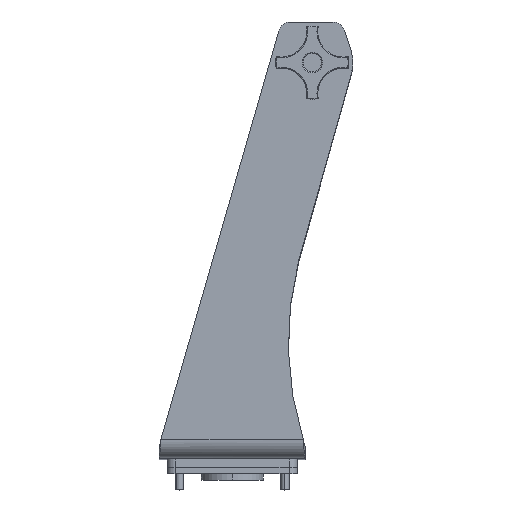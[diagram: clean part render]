
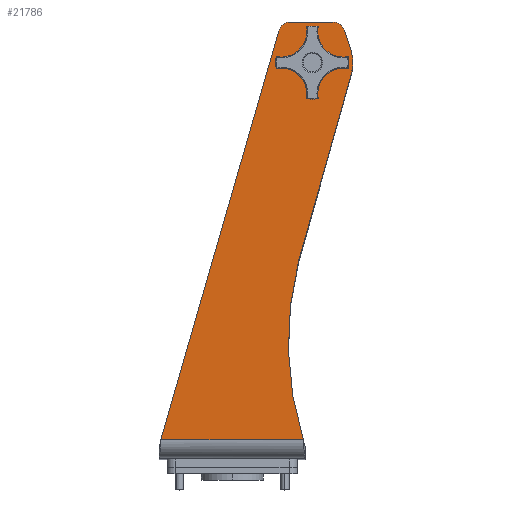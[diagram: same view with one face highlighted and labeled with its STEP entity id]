
A CAD part, top view. The second image highlights one B-rep face of the part: STEP entity #21786.
In plain terms, the highlighted planar face has unit normal (0, 0, 1) as drawn and (1, 0, 0) by its records, which use the part's own axes.
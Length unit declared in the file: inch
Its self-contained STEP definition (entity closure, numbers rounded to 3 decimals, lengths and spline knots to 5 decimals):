
#489 = LINE ( 'NONE', #11552, #24129 ) ;
#490 = CIRCLE ( 'NONE', #4813, 0.37474 ) ;
#504 = DIRECTION ( 'NONE',  ( 0., 0., 1. ) ) ;
#586 = CARTESIAN_POINT ( 'NONE',  ( 12.188, 13.426, -11.72649 ) ) ;
#816 = CARTESIAN_POINT ( 'NONE',  ( 12.188, 2.05303, -7.08248 ) ) ;
#969 = CARTESIAN_POINT ( 'NONE',  ( 12.188, 13.05126, -1.79451 ) ) ;
#1171 = DIRECTION ( 'NONE',  ( 1., 0., 0. ) ) ;
#1961 = LINE ( 'NONE', #5894, #15483 ) ;
#2237 = DIRECTION ( 'NONE',  ( 0., -0.961, 0.277 ) ) ;
#2592 = CARTESIAN_POINT ( 'NONE',  ( 12.188, 12.176, -2.46533 ) ) ;
#2807 = DIRECTION ( 'NONE',  ( 0., 1., 0. ) ) ;
#3528 = EDGE_CURVE ( 'NONE', #10192, #7023, #1961, .T. ) ;
#3694 = CARTESIAN_POINT ( 'NONE',  ( 12.188, 13.426, -3.10022 ) ) ;
#4458 = DIRECTION ( 'NONE',  ( 0., 1., 0. ) ) ;
#4813 = AXIS2_PLACEMENT_3D ( 'NONE', #969, #13981, #2807 ) ;
#5182 = VECTOR ( 'NONE', #504, 39.37008 ) ;
#5536 = LINE ( 'NONE', #6516, #19914 ) ;
#5894 = CARTESIAN_POINT ( 'NONE',  ( 12.188, 7.04347, 0.32736 ) ) ;
#6081 = DIRECTION ( 'NONE',  ( 1., 0., 0. ) ) ;
#6347 = CIRCLE ( 'NONE', #14542, 0.1955 ) ;
#6357 = AXIS2_PLACEMENT_3D ( 'NONE', #18537, #7301, #20413 ) ;
#6516 = CARTESIAN_POINT ( 'NONE',  ( 12.188, 0.563, -11.72649 ) ) ;
#6967 = CARTESIAN_POINT ( 'NONE',  ( 12.188, 0.563, 2.1958 ) ) ;
#7019 = ORIENTED_EDGE ( 'NONE', *, *, #11918, .T. ) ;
#7023 = VERTEX_POINT ( 'NONE', #6967 ) ;
#7161 = CIRCLE ( 'NONE', #20255, 1.25 ) ;
#7253 = ORIENTED_EDGE ( 'NONE', *, *, #3528, .T. ) ;
#7301 = DIRECTION ( 'NONE',  ( -1., 0., 0. ) ) ;
#7566 = CARTESIAN_POINT ( 'NONE',  ( 12.188, 12.176, -2.46533 ) ) ;
#7813 = DIRECTION ( 'NONE',  ( 1., 0., 0. ) ) ;
#7959 = EDGE_LOOP ( 'NONE', ( #7253, #20992, #21618, #9444, #10494, #19219, #17006, #7019, #14303 ) ) ;
#8530 = DIRECTION ( 'NONE',  ( 0., 0.951, 0.31 ) ) ;
#8540 = CARTESIAN_POINT ( 'NONE',  ( 12.188, 11.9805, -2.46533 ) ) ;
#9140 = VERTEX_POINT ( 'NONE', #8540 ) ;
#9277 = EDGE_CURVE ( 'NONE', #20380, #10192, #490, .T. ) ;
#9434 = DIRECTION ( 'NONE',  ( 0., 1., 0. ) ) ;
#9444 = ORIENTED_EDGE ( 'NONE', *, *, #14097, .T. ) ;
#9654 = LINE ( 'NONE', #816, #23998 ) ;
#9675 = CARTESIAN_POINT ( 'NONE',  ( 12.188, 3.56814, -11.72649 ) ) ;
#9904 = CIRCLE ( 'NONE', #13581, 0.37474 ) ;
#10056 = FACE_OUTER_BOUND ( 'NONE', #7959, .T. ) ;
#10192 = VERTEX_POINT ( 'NONE', #14385 ) ;
#10494 = ORIENTED_EDGE ( 'NONE', *, *, #13951, .T. ) ;
#10932 = VERTEX_POINT ( 'NONE', #20406 ) ;
#10946 = AXIS2_PLACEMENT_3D ( 'NONE', #2592, #15665, #4458 ) ;
#11476 = DIRECTION ( 'NONE',  ( 0., 0.963, -0.271 ) ) ;
#11552 = CARTESIAN_POINT ( 'NONE',  ( 12.188, 6.27799, -2.10292 ) ) ;
#11800 = EDGE_CURVE ( 'NONE', #9140, #15455, #6347, .T. ) ;
#11918 = EDGE_CURVE ( 'NONE', #22201, #20380, #15127, .T. ) ;
#12209 = CARTESIAN_POINT ( 'NONE',  ( 12.188, 12.3715, -2.46533 ) ) ;
#12297 = CARTESIAN_POINT ( 'NONE',  ( 12.188, 13.05126, -3.10022 ) ) ;
#12354 = ORIENTED_EDGE ( 'NONE', *, *, #11800, .F. ) ;
#13218 = CARTESIAN_POINT ( 'NONE',  ( 12.188, 0.563, -2.18872 ) ) ;
#13581 = AXIS2_PLACEMENT_3D ( 'NONE', #12297, #1171, #14178 ) ;
#13951 = EDGE_CURVE ( 'NONE', #19415, #10932, #7161, .T. ) ;
#13981 = DIRECTION ( 'NONE',  ( 1., 0., 0. ) ) ;
#13996 = VERTEX_POINT ( 'NONE', #15090 ) ;
#14097 = EDGE_CURVE ( 'NONE', #23839, #19415, #489, .T. ) ;
#14103 = DIRECTION ( 'NONE',  ( 0., 0., -1. ) ) ;
#14178 = DIRECTION ( 'NONE',  ( 0., 1., 0. ) ) ;
#14242 = EDGE_CURVE ( 'NONE', #15455, #9140, #18347, .T. ) ;
#14250 = CARTESIAN_POINT ( 'NONE',  ( 12.188, 13.426, -1.79451 ) ) ;
#14303 = ORIENTED_EDGE ( 'NONE', *, *, #9277, .T. ) ;
#14385 = CARTESIAN_POINT ( 'NONE',  ( 12.188, 13.14147, -1.43079 ) ) ;
#14386 = EDGE_CURVE ( 'NONE', #17468, #23839, #20982, .T. ) ;
#14452 = FACE_BOUND ( 'NONE', #14996, .T. ) ;
#14542 = AXIS2_PLACEMENT_3D ( 'NONE', #19066, #7813, #20923 ) ;
#14726 = ORIENTED_EDGE ( 'NONE', *, *, #14242, .F. ) ;
#14996 = EDGE_LOOP ( 'NONE', ( #14726, #12354 ) ) ;
#15090 = CARTESIAN_POINT ( 'NONE',  ( 12.188, 13.15965, -3.45894 ) ) ;
#15127 = LINE ( 'NONE', #586, #5182 ) ;
#15215 = AXIS2_PLACEMENT_3D ( 'NONE', #9675, #6081, #19212 ) ;
#15455 = VERTEX_POINT ( 'NONE', #12209 ) ;
#15483 = VECTOR ( 'NONE', #2237, 39.37008 ) ;
#15665 = DIRECTION ( 'NONE',  ( 1., 0., 0. ) ) ;
#16004 = EDGE_CURVE ( 'NONE', #10932, #13996, #9654, .T. ) ;
#16465 = CARTESIAN_POINT ( 'NONE',  ( 12.188, 11.81447, -3.6619 ) ) ;
#16686 = CARTESIAN_POINT ( 'NONE',  ( 12.188, 6.07712, -2.04636 ) ) ;
#17006 = ORIENTED_EDGE ( 'NONE', *, *, #17133, .T. ) ;
#17087 = EDGE_CURVE ( 'NONE', #7023, #17468, #5536, .T. ) ;
#17133 = EDGE_CURVE ( 'NONE', #13996, #22201, #9904, .T. ) ;
#17327 = PLANE ( 'NONE',  #15215 ) ;
#17468 = VERTEX_POINT ( 'NONE', #13218 ) ;
#18347 = CIRCLE ( 'NONE', #10946, 0.1955 ) ;
#18537 = CARTESIAN_POINT ( 'NONE',  ( 12.188, 3.56814, -11.72649 ) ) ;
#19066 = CARTESIAN_POINT ( 'NONE',  ( 12.188, 12.176, -2.46533 ) ) ;
#19212 = DIRECTION ( 'NONE',  ( 0., 1., 0. ) ) ;
#19219 = ORIENTED_EDGE ( 'NONE', *, *, #16004, .T. ) ;
#19415 = VERTEX_POINT ( 'NONE', #16465 ) ;
#19914 = VECTOR ( 'NONE', #14103, 39.37008 ) ;
#20255 = AXIS2_PLACEMENT_3D ( 'NONE', #7566, #20682, #9434 ) ;
#20380 = VERTEX_POINT ( 'NONE', #14250 ) ;
#20406 = CARTESIAN_POINT ( 'NONE',  ( 12.188, 12.53753, -3.6619 ) ) ;
#20413 = DIRECTION ( 'NONE',  ( 0., 1., 0. ) ) ;
#20682 = DIRECTION ( 'NONE',  ( 1., 0., 0. ) ) ;
#20923 = DIRECTION ( 'NONE',  ( 0., 1., 0. ) ) ;
#20982 = CIRCLE ( 'NONE', #6357, 10. ) ;
#20992 = ORIENTED_EDGE ( 'NONE', *, *, #17087, .T. ) ;
#21618 = ORIENTED_EDGE ( 'NONE', *, *, #14386, .T. ) ;
#21786 = ADVANCED_FACE ( 'NONE', ( #14452, #10056 ), #17327, .T. ) ;
#22201 = VERTEX_POINT ( 'NONE', #3694 ) ;
#23839 = VERTEX_POINT ( 'NONE', #16686 ) ;
#23998 = VECTOR ( 'NONE', #8530, 39.37008 ) ;
#24129 = VECTOR ( 'NONE', #11476, 39.37008 ) ;
